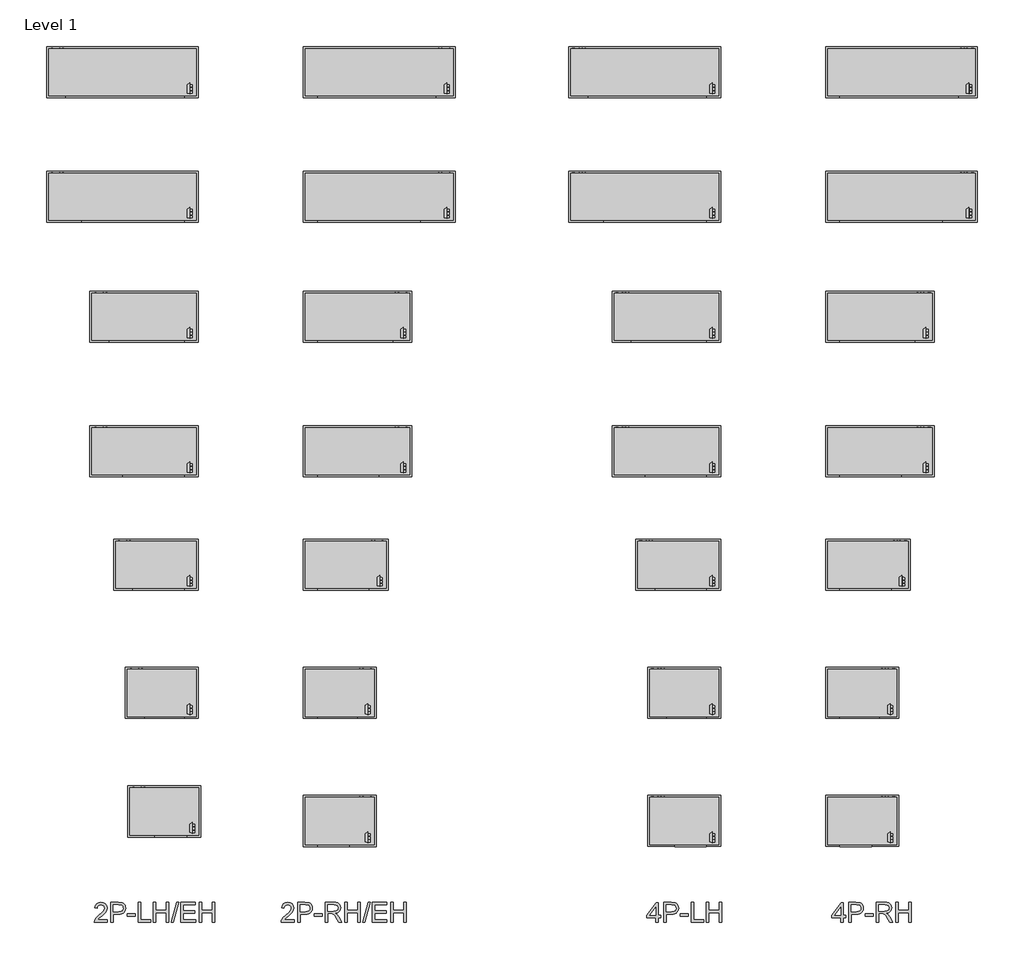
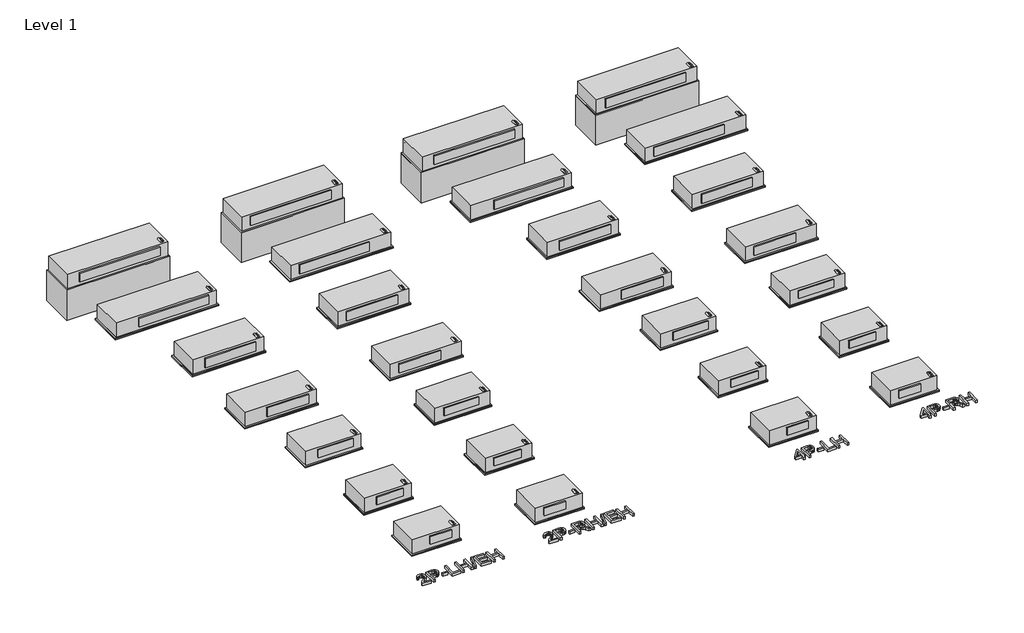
# One storey: 32 proxies.
"""IFC4 building model written with IfcOpenShell, lengths in millimetres."""

from ifc_helpers import new_model, si_unit, origin, origin_with_axes, place, context, project, spatial, polyline, outline, extrude, transform, mapped, element, save
from components import mechanical_equipment_633f6ef1, mechanical_equipment_d1eed018, mechanical_equipment_48fb63d9, mechanical_equipment_cf1a71f1, mechanical_equipment_db088cd1, mechanical_equipment_1a55ae02, mechanical_equipment_9cad60a5, mechanical_equipment_09d2879e, mechanical_equipment_3ef22b79, mechanical_equipment_a935bf6d, mechanical_equipment_6b5461d0, mechanical_equipment_c4cb6196, mechanical_equipment_329d961f, mechanical_equipment_5886c7f6, mechanical_equipment_81cd0e4f, mechanical_equipment_a4355331, mechanical_equipment_d2c932b0, mechanical_equipment_86200f0f, mechanical_equipment_790cad55, mechanical_equipment_7146fa5c, mechanical_equipment_15e1d8de, mechanical_equipment_340a6c1b, mechanical_equipment_507d744f, mechanical_equipment_dfca75fd, mechanical_equipment_479caae4, mechanical_equipment_9d87b53e, mechanical_equipment_d87b259f, mechanical_equipment_dec472a1

model = new_model("IFC4")

# Units and contexts
model_context = context("Model", 3, world=origin())
ifc_project = project(units=[si_unit("LENGTHUNIT", "METRE", prefix="MILLI")], contexts=[model_context])

# Site, building, storey
site = spatial("IfcSite", under=ifc_project)
building = spatial("IfcBuilding", under=site)
storey = spatial("IfcBuildingStorey", under=building, Name="Level 1", Elevation=0.0)

# Proxies
placement = place(None, origin())
mechanical_equipment_shape = mechanical_equipment_633f6ef1(model_context)
element("IfcBuildingElementProxy", 1, Name="Horizontal_Telescoping_Fan_Coil_Unit_-_CBY_-_IEC_-_4-Pipe_LH_2022 : Size 12 - 277v/60Hz/1Ph - 4/1 Coil", ObjectType="Horizontal_Telescoping_Fan_Coil_Unit_-_CBY_-_IEC_-_4-Pipe_LH_2022 : Size 12 - 277v/60Hz/1Ph - 4/1 Coil", at=placement, inside=storey, context=model_context, shape_type="MappedRepresentation", body=[
    mapped(mechanical_equipment_shape, transform((-9121.1167535, 3659.7082693, 0.0), x_axis=(1.0, 0.0, 0.0), y_axis=(0.0, 1.0, 0.0), z_axis=(0.0, 0.0, 1.0))),
])
mechanical_equipment_2_shape = mechanical_equipment_d1eed018(model_context)
element("IfcBuildingElementProxy", 2, Name="Horizontal_Telescoping_Fan_Coil_Unit_-_CBY_-_IEC_-_4-Pipe_LH_2022 : Size 10 - 277v/60Hz/1Ph - 4/1 Coil", ObjectType="Horizontal_Telescoping_Fan_Coil_Unit_-_CBY_-_IEC_-_4-Pipe_LH_2022 : Size 10 - 277v/60Hz/1Ph - 4/1 Coil", at=placement, inside=storey, context=model_context, shape_type="MappedRepresentation", body=[
    mapped(mechanical_equipment_2_shape, transform((-9121.1167535, 2055.0556307, 0.0), x_axis=(1.0, 0.0, 0.0), y_axis=(0.0, 1.0, 0.0), z_axis=(0.0, 0.0, 1.0))),
])
mechanical_equipment_3_shape = mechanical_equipment_48fb63d9(model_context)
element("IfcBuildingElementProxy", 3, Name="Horizontal_Telescoping_Fan_Coil_Unit_-_CBY_-_IEC_-_4-Pipe_LH_2022 : Size 08 - 277v/60Hz/1Ph - 4/1 Coil", ObjectType="Horizontal_Telescoping_Fan_Coil_Unit_-_CBY_-_IEC_-_4-Pipe_LH_2022 : Size 08 - 277v/60Hz/1Ph - 4/1 Coil", at=placement, inside=storey, context=model_context, shape_type="MappedRepresentation", body=[
    mapped(mechanical_equipment_3_shape, transform((-8841.7167535, 508.0546274, 0.0), x_axis=(1.0, 0.0, 0.0), y_axis=(0.0, 1.0, 0.0), z_axis=(0.0, 0.0, 1.0))),
])
mechanical_equipment_4_shape = mechanical_equipment_cf1a71f1(model_context)
element("IfcBuildingElementProxy", 4, Name="Horizontal_Telescoping_Fan_Coil_Unit_-_CBY_-_IEC_-_4-Pipe_LH_2022 : Size 06 - 277v/60Hz/1Ph - 4/1 Coil", ObjectType="Horizontal_Telescoping_Fan_Coil_Unit_-_CBY_-_IEC_-_4-Pipe_LH_2022 : Size 06 - 277v/60Hz/1Ph - 4/1 Coil", at=placement, inside=storey, context=model_context, shape_type="MappedRepresentation", body=[
    mapped(mechanical_equipment_4_shape, transform((-8841.7167535, -1224.5864964, 0.0), x_axis=(1.0, 0.0, 0.0), y_axis=(0.0, 1.0, 0.0), z_axis=(0.0, 0.0, 1.0))),
])
mechanical_equipment_5_shape = mechanical_equipment_db088cd1(model_context)
element("IfcBuildingElementProxy", 5, Name="Horizontal_Telescoping_Fan_Coil_Unit_-_CBY_-_IEC_-_4-Pipe_LH_2022 : Size 04 - 277v/60Hz/1Ph - 4/1 Coil", ObjectType="Horizontal_Telescoping_Fan_Coil_Unit_-_CBY_-_IEC_-_4-Pipe_LH_2022 : Size 04 - 277v/60Hz/1Ph - 4/1 Coil", at=placement, inside=storey, context=model_context, shape_type="MappedRepresentation", body=[
    mapped(mechanical_equipment_5_shape, transform((-8689.3167535, -2689.0807796, 0.0), x_axis=(1.0, 0.0, 0.0), y_axis=(0.0, 1.0, 0.0), z_axis=(0.0, 0.0, 1.0))),
])
mechanical_equipment_6_shape = mechanical_equipment_1a55ae02(model_context)
element("IfcBuildingElementProxy", 6, Name="Horizontal_Telescoping_Fan_Coil_Unit_-_CBY_-_IEC_-_4-Pipe_LH_2022 : Size 03 - 277v/60Hz/1Ph - 4/1 Coil", ObjectType="Horizontal_Telescoping_Fan_Coil_Unit_-_CBY_-_IEC_-_4-Pipe_LH_2022 : Size 03 - 277v/60Hz/1Ph - 4/1 Coil", at=placement, inside=storey, context=model_context, shape_type="MappedRepresentation", body=[
    mapped(mechanical_equipment_6_shape, transform((-8613.1167535, -4339.2151831, 0.0), x_axis=(1.0, 0.0, 0.0), y_axis=(0.0, 1.0, 0.0), z_axis=(0.0, 0.0, 1.0))),
])
mechanical_equipment_7_shape = mechanical_equipment_9cad60a5(model_context)
element("IfcBuildingElementProxy", 7, Name="Horizontal_Telescoping_Fan_Coil_Unit_-_CBY_-_IEC_-_4-Pipe_LH_2022 : Size 02 - 277v/60Hz/1Ph - 4/1 Coil", ObjectType="Horizontal_Telescoping_Fan_Coil_Unit_-_CBY_-_IEC_-_4-Pipe_LH_2022 : Size 02 - 277v/60Hz/1Ph - 4/1 Coil", at=placement, inside=storey, context=model_context, shape_type="MappedRepresentation", body=[
    mapped(mechanical_equipment_7_shape, transform((-8613.1167535, -5989.3495867, 0.0), x_axis=(1.0, 0.0, 0.0), y_axis=(0.0, 1.0, 0.0), z_axis=(0.0, 0.0, 1.0))),
])
mechanical_equipment_8_shape = mechanical_equipment_09d2879e(model_context)
element("IfcBuildingElementProxy", 8, Name="Horizontal_Telescoping_Fan_Coil_Unit_-_CBY_-_IEC_-_2-Pipe_Cool-EHeat_LH_2022 : Size 10 - 277v/60Hz/1Ph - 4 Row 8.0kW", ObjectType="Horizontal_Telescoping_Fan_Coil_Unit_-_CBY_-_IEC_-_2-Pipe_Cool-EHeat_LH_2022 : Size 10 - 277v/60Hz/1Ph - 4 Row 8.0kW", at=placement, inside=storey, context=model_context, shape_type="MappedRepresentation", body=[
    mapped(mechanical_equipment_8_shape, transform((-15852.1167535, 2055.0556307, 0.0), x_axis=(1.0, 0.0, 0.0), y_axis=(0.0, 1.0, 0.0), z_axis=(0.0, 0.0, 1.0))),
])
mechanical_equipment_9_shape = mechanical_equipment_3ef22b79(model_context)
element("IfcBuildingElementProxy", 9, Name="Horizontal_Telescoping_Fan_Coil_Unit_-_CBY_-_IEC_-_2-Pipe_Cool-EHeat_LH_2022 : Size 08 - 277v/60Hz/1Ph - 4 Row 6.0kW", ObjectType="Horizontal_Telescoping_Fan_Coil_Unit_-_CBY_-_IEC_-_2-Pipe_Cool-EHeat_LH_2022 : Size 08 - 277v/60Hz/1Ph - 4 Row 6.0kW", at=placement, inside=storey, context=model_context, shape_type="MappedRepresentation", body=[
    mapped(mechanical_equipment_9_shape, transform((-15572.7167535, 508.0546274, 0.0), x_axis=(1.0, 0.0, 0.0), y_axis=(0.0, 1.0, 0.0), z_axis=(0.0, 0.0, 1.0))),
])
mechanical_equipment_10_shape = mechanical_equipment_a935bf6d(model_context)
element("IfcBuildingElementProxy", 10, Name="Horizontal_Telescoping_Fan_Coil_Unit_-_CBY_-_IEC_-_2-Pipe_Cool-EHeat_LH_2022 : Size 06 - 277v/60Hz/1Ph - 4 Row 6.0kW", ObjectType="Horizontal_Telescoping_Fan_Coil_Unit_-_CBY_-_IEC_-_2-Pipe_Cool-EHeat_LH_2022 : Size 06 - 277v/60Hz/1Ph - 4 Row 6.0kW", at=placement, inside=storey, context=model_context, shape_type="MappedRepresentation", body=[
    mapped(mechanical_equipment_10_shape, transform((-15572.7167535, -1224.5864964, 0.0), x_axis=(1.0, 0.0, 0.0), y_axis=(0.0, 1.0, 0.0), z_axis=(0.0, 0.0, 1.0))),
])
mechanical_equipment_11_shape = mechanical_equipment_6b5461d0(model_context)
element("IfcBuildingElementProxy", 11, Name="Horizontal_Telescoping_Fan_Coil_Unit_-_CBY_-_IEC_-_2-Pipe_Cool-EHeat_LH_2022 : Size 04 - 277v/60Hz/1Ph - 4 Row 3.0kW", ObjectType="Horizontal_Telescoping_Fan_Coil_Unit_-_CBY_-_IEC_-_2-Pipe_Cool-EHeat_LH_2022 : Size 04 - 277v/60Hz/1Ph - 4 Row 3.0kW", at=placement, inside=storey, context=model_context, shape_type="MappedRepresentation", body=[
    mapped(mechanical_equipment_11_shape, transform((-15420.3167535, -2689.0807796, 0.0), x_axis=(1.0, 0.0, 0.0), y_axis=(0.0, 1.0, 0.0), z_axis=(0.0, 0.0, 1.0))),
])
mechanical_equipment_12_shape = mechanical_equipment_c4cb6196(model_context)
element("IfcBuildingElementProxy", 12, Name="Horizontal_Telescoping_Fan_Coil_Unit_-_CBY_-_IEC_-_2-Pipe_Cool-EHeat_LH_2022 : Size 03 - 277v/60Hz/1Ph - 4 Row 3.0kW", ObjectType="Horizontal_Telescoping_Fan_Coil_Unit_-_CBY_-_IEC_-_2-Pipe_Cool-EHeat_LH_2022 : Size 03 - 277v/60Hz/1Ph - 4 Row 3.0kW", at=placement, inside=storey, context=model_context, shape_type="MappedRepresentation", body=[
    mapped(mechanical_equipment_12_shape, transform((-15344.1167535, -4339.2151831, 0.0), x_axis=(1.0, 0.0, 0.0), y_axis=(0.0, 1.0, 0.0), z_axis=(0.0, 0.0, 1.0))),
])
mechanical_equipment_13_shape = mechanical_equipment_329d961f(model_context)
element("IfcBuildingElementProxy", 13, Name="Horizontal_Telescoping_Fan_Coil_Unit_-_CBY_-_IEC_-_2-Pipe_Cool-EHeat_LH_2022 : Size 02 - 277v/60Hz/1Ph - 4 Row 2.0kW", ObjectType="Horizontal_Telescoping_Fan_Coil_Unit_-_CBY_-_IEC_-_2-Pipe_Cool-EHeat_LH_2022 : Size 02 - 277v/60Hz/1Ph - 4 Row 2.0kW", at=placement, inside=storey, context=model_context, shape_type="MappedRepresentation", body=[
    mapped(mechanical_equipment_13_shape, transform((-15311.910844, -5869.1554962, 87.988181), x_axis=(1.0, 0.0, 0.0), y_axis=(0.0, 1.0, 0.0), z_axis=(0.0, 0.0, 1.0))),
])
mechanical_equipment_14_shape = mechanical_equipment_5886c7f6(model_context)
element("IfcBuildingElementProxy", 14, Name="Horizontal_Telescoping_Fan_Coil_Unit_-_CBY_-_IEC_-_2-Pipe_Cool-EHeat_RH_2022 : Size 10 - 277v/60Hz/1Ph - 4 Row 8.0kW", ObjectType="Horizontal_Telescoping_Fan_Coil_Unit_-_CBY_-_IEC_-_2-Pipe_Cool-EHeat_RH_2022 : Size 10 - 277v/60Hz/1Ph - 4 Row 8.0kW", at=placement, inside=storey, context=model_context, shape_type="MappedRepresentation", body=[
    mapped(mechanical_equipment_14_shape, transform((-12542.0194717, 2055.0556307, 0.0), x_axis=(1.0, 0.0, 0.0), y_axis=(0.0, 1.0, 0.0), z_axis=(0.0, 0.0, 1.0))),
])
mechanical_equipment_15_shape = mechanical_equipment_81cd0e4f(model_context)
element("IfcBuildingElementProxy", 15, Name="Horizontal_Telescoping_Fan_Coil_Unit_-_CBY_-_IEC_-_2-Pipe_Cool-EHeat_RH_2022 : Size 08 - 277v/60Hz/1Ph - 4 Row 6.0kW", ObjectType="Horizontal_Telescoping_Fan_Coil_Unit_-_CBY_-_IEC_-_2-Pipe_Cool-EHeat_RH_2022 : Size 08 - 277v/60Hz/1Ph - 4 Row 6.0kW", at=placement, inside=storey, context=model_context, shape_type="MappedRepresentation", body=[
    mapped(mechanical_equipment_15_shape, transform((-12821.4194717, 508.0546274, 0.0), x_axis=(1.0, 0.0, 0.0), y_axis=(0.0, 1.0, 0.0), z_axis=(0.0, 0.0, 1.0))),
])
mechanical_equipment_16_shape = mechanical_equipment_a4355331(model_context)
element("IfcBuildingElementProxy", 16, Name="Horizontal_Telescoping_Fan_Coil_Unit_-_CBY_-_IEC_-_2-Pipe_Cool-EHeat_RH_2022 : Size 06 - 277v/60Hz/1Ph - 4 Row 6.0kW", ObjectType="Horizontal_Telescoping_Fan_Coil_Unit_-_CBY_-_IEC_-_2-Pipe_Cool-EHeat_RH_2022 : Size 06 - 277v/60Hz/1Ph - 4 Row 6.0kW", at=placement, inside=storey, context=model_context, shape_type="MappedRepresentation", body=[
    mapped(mechanical_equipment_16_shape, transform((-12821.4194717, -1224.5864964, 0.0), x_axis=(1.0, 0.0, 0.0), y_axis=(0.0, 1.0, 0.0), z_axis=(0.0, 0.0, 1.0))),
])
mechanical_equipment_17_shape = mechanical_equipment_d2c932b0(model_context)
element("IfcBuildingElementProxy", 17, Name="Horizontal_Telescoping_Fan_Coil_Unit_-_CBY_-_IEC_-_2-Pipe_Cool-EHeat_RH_2022 : Size 04 - 277v/60Hz/1Ph - 4 Row 3.0kW", ObjectType="Horizontal_Telescoping_Fan_Coil_Unit_-_CBY_-_IEC_-_2-Pipe_Cool-EHeat_RH_2022 : Size 04 - 277v/60Hz/1Ph - 4 Row 3.0kW", at=placement, inside=storey, context=model_context, shape_type="MappedRepresentation", body=[
    mapped(mechanical_equipment_17_shape, transform((-12973.8194717, -2689.0807796, 0.0), x_axis=(1.0, 0.0, 0.0), y_axis=(0.0, 1.0, 0.0), z_axis=(0.0, 0.0, 1.0))),
])
mechanical_equipment_18_shape = mechanical_equipment_86200f0f(model_context)
element("IfcBuildingElementProxy", 18, Name="Horizontal_Telescoping_Fan_Coil_Unit_-_CBY_-_IEC_-_2-Pipe_Cool-EHeat_RH_2022 : Size 03 - 277v/60Hz/1Ph - 4 Row 3.0kW", ObjectType="Horizontal_Telescoping_Fan_Coil_Unit_-_CBY_-_IEC_-_2-Pipe_Cool-EHeat_RH_2022 : Size 03 - 277v/60Hz/1Ph - 4 Row 3.0kW", at=placement, inside=storey, context=model_context, shape_type="MappedRepresentation", body=[
    mapped(mechanical_equipment_18_shape, transform((-13050.0194717, -4339.2151831, 0.0), x_axis=(1.0, 0.0, 0.0), y_axis=(0.0, 1.0, 0.0), z_axis=(0.0, 0.0, 1.0))),
])
mechanical_equipment_19_shape = mechanical_equipment_790cad55(model_context)
element("IfcBuildingElementProxy", 19, Name="Horizontal_Telescoping_Fan_Coil_Unit_-_CBY_-_IEC_-_2-Pipe_Cool-EHeat_RH_2022 : Size 02 - 277v/60Hz/1Ph - 4 Row 2.0kW", ObjectType="Horizontal_Telescoping_Fan_Coil_Unit_-_CBY_-_IEC_-_2-Pipe_Cool-EHeat_RH_2022 : Size 02 - 277v/60Hz/1Ph - 4 Row 2.0kW", at=placement, inside=storey, context=model_context, shape_type="MappedRepresentation", body=[
    mapped(mechanical_equipment_19_shape, transform((-13050.0194717, -5989.3495867, 0.0), x_axis=(1.0, 0.0, 0.0), y_axis=(0.0, 1.0, 0.0), z_axis=(0.0, 0.0, 1.0))),
])
mechanical_equipment_20_shape = mechanical_equipment_7146fa5c(model_context)
element("IfcBuildingElementProxy", 20, Name="Horizontal_Telescoping_Fan_Coil_Unit_-_CBY_-_IEC_-_4-Pipe_RH_2022 : Size 02 - 277v/60Hz/1Ph - 4/1 Coil", ObjectType="Horizontal_Telescoping_Fan_Coil_Unit_-_CBY_-_IEC_-_4-Pipe_RH_2022 : Size 02 - 277v/60Hz/1Ph - 4/1 Coil", at=placement, inside=storey, context=model_context, shape_type="MappedRepresentation", body=[
    mapped(mechanical_equipment_20_shape, transform((-6319.0194717, -5989.3495867, 0.0), x_axis=(1.0, 0.0, 0.0), y_axis=(0.0, 1.0, 0.0), z_axis=(0.0, 0.0, 1.0))),
])
mechanical_equipment_21_shape = mechanical_equipment_15e1d8de(model_context)
element("IfcBuildingElementProxy", 21, Name="Horizontal_Telescoping_Fan_Coil_Unit_-_CBY_-_IEC_-_4-Pipe_RH_2022 : Size 03 - 277v/60Hz/1Ph - 4/1 Coil", ObjectType="Horizontal_Telescoping_Fan_Coil_Unit_-_CBY_-_IEC_-_4-Pipe_RH_2022 : Size 03 - 277v/60Hz/1Ph - 4/1 Coil", at=placement, inside=storey, context=model_context, shape_type="MappedRepresentation", body=[
    mapped(mechanical_equipment_21_shape, transform((-6319.0194717, -4339.2151831, 0.0), x_axis=(1.0, 0.0, 0.0), y_axis=(0.0, 1.0, 0.0), z_axis=(0.0, 0.0, 1.0))),
])
mechanical_equipment_22_shape = mechanical_equipment_340a6c1b(model_context)
element("IfcBuildingElementProxy", 22, Name="Horizontal_Telescoping_Fan_Coil_Unit_-_CBY_-_IEC_-_4-Pipe_RH_2022 : Size 04 - 277v/60Hz/1Ph - 4/1 Coil", ObjectType="Horizontal_Telescoping_Fan_Coil_Unit_-_CBY_-_IEC_-_4-Pipe_RH_2022 : Size 04 - 277v/60Hz/1Ph - 4/1 Coil", at=placement, inside=storey, context=model_context, shape_type="MappedRepresentation", body=[
    mapped(mechanical_equipment_22_shape, transform((-6242.8194717, -2689.0807796, 0.0), x_axis=(1.0, 0.0, 0.0), y_axis=(0.0, 1.0, 0.0), z_axis=(0.0, 0.0, 1.0))),
])
mechanical_equipment_23_shape = mechanical_equipment_507d744f(model_context)
element("IfcBuildingElementProxy", 23, Name="Horizontal_Telescoping_Fan_Coil_Unit_-_CBY_-_IEC_-_4-Pipe_RH_2022 : Size 06 - 277v/60Hz/1Ph - 4/1 Coil", ObjectType="Horizontal_Telescoping_Fan_Coil_Unit_-_CBY_-_IEC_-_4-Pipe_RH_2022 : Size 06 - 277v/60Hz/1Ph - 4/1 Coil", at=placement, inside=storey, context=model_context, shape_type="MappedRepresentation", body=[
    mapped(mechanical_equipment_23_shape, transform((-6090.4194717, -1224.5864964, 0.0), x_axis=(1.0, 0.0, 0.0), y_axis=(0.0, 1.0, 0.0), z_axis=(0.0, 0.0, 1.0))),
])
mechanical_equipment_24_shape = mechanical_equipment_dfca75fd(model_context)
element("IfcBuildingElementProxy", 24, Name="Horizontal_Telescoping_Fan_Coil_Unit_-_CBY_-_IEC_-_4-Pipe_RH_2022 : Size 08 - 277v/60Hz/1Ph - 4/1 Coil", ObjectType="Horizontal_Telescoping_Fan_Coil_Unit_-_CBY_-_IEC_-_4-Pipe_RH_2022 : Size 08 - 277v/60Hz/1Ph - 4/1 Coil", at=placement, inside=storey, context=model_context, shape_type="MappedRepresentation", body=[
    mapped(mechanical_equipment_24_shape, transform((-6090.4194717, 508.0546274, 0.0), x_axis=(1.0, 0.0, 0.0), y_axis=(0.0, 1.0, 0.0), z_axis=(0.0, 0.0, 1.0))),
])
mechanical_equipment_25_shape = mechanical_equipment_479caae4(model_context)
element("IfcBuildingElementProxy", 25, Name="Horizontal_Telescoping_Fan_Coil_Unit_-_CBY_-_IEC_-_4-Pipe_RH_2022 : Size 10 - 277v/60Hz/1Ph - 4/1 Coil", ObjectType="Horizontal_Telescoping_Fan_Coil_Unit_-_CBY_-_IEC_-_4-Pipe_RH_2022 : Size 10 - 277v/60Hz/1Ph - 4/1 Coil", at=placement, inside=storey, context=model_context, shape_type="MappedRepresentation", body=[
    mapped(mechanical_equipment_25_shape, transform((-5811.0194717, 2055.0556307, 0.0), x_axis=(1.0, 0.0, 0.0), y_axis=(0.0, 1.0, 0.0), z_axis=(0.0, 0.0, 1.0))),
])
mechanical_equipment_26_shape = mechanical_equipment_9d87b53e(model_context)
element("IfcBuildingElementProxy", 26, Name="Horizontal_Telescoping_Fan_Coil_Unit_-_CBY_-_IEC_-_2-Pipe_Cool-EHeat_RH_2022 : Size 12 - 277v/60Hz/1Ph - 4 Row 10.0kW", ObjectType="Horizontal_Telescoping_Fan_Coil_Unit_-_CBY_-_IEC_-_2-Pipe_Cool-EHeat_RH_2022 : Size 12 - 277v/60Hz/1Ph - 4 Row 10.0kW", at=placement, inside=storey, context=model_context, shape_type="MappedRepresentation", body=[
    mapped(mechanical_equipment_26_shape, transform((-12542.0194717, 3659.7082693, 0.0), x_axis=(1.0, 0.0, 0.0), y_axis=(0.0, 1.0, 0.0), z_axis=(0.0, 0.0, 1.0))),
])
mechanical_equipment_27_shape = mechanical_equipment_d87b259f(model_context)
element("IfcBuildingElementProxy", 27, Name="Horizontal_Telescoping_Fan_Coil_Unit_-_CBY_-_IEC_-_4-Pipe_RH_2022 : Size 12 - 277v/60Hz/1Ph - 4/1 Coil", ObjectType="Horizontal_Telescoping_Fan_Coil_Unit_-_CBY_-_IEC_-_4-Pipe_RH_2022 : Size 12 - 277v/60Hz/1Ph - 4/1 Coil", at=placement, inside=storey, context=model_context, shape_type="MappedRepresentation", body=[
    mapped(mechanical_equipment_27_shape, transform((-5811.0194717, 3659.7082693, 0.0), x_axis=(1.0, 0.0, 0.0), y_axis=(0.0, 1.0, 0.0), z_axis=(0.0, 0.0, 1.0))),
])
mechanical_equipment_28_shape = mechanical_equipment_dec472a1(model_context)
element("IfcBuildingElementProxy", 28, Name="Horizontal_Telescoping_Fan_Coil_Unit_-_CBY_-_IEC_-_2-Pipe_Cool-EHeat_LH_2022 : Size 12 - 277v/60Hz/1Ph - 4 Row 10.0kW", ObjectType="Horizontal_Telescoping_Fan_Coil_Unit_-_CBY_-_IEC_-_2-Pipe_Cool-EHeat_LH_2022 : Size 12 - 277v/60Hz/1Ph - 4 Row 10.0kW", at=placement, inside=storey, context=model_context, shape_type="MappedRepresentation", body=[
    mapped(mechanical_equipment_28_shape, transform((-15852.1167535, 3659.7082693, 0.0), x_axis=(1.0, 0.0, 0.0), y_axis=(0.0, 1.0, 0.0), z_axis=(0.0, 0.0, 1.0))),
])
element("IfcBuildingElementProxy", 29, Name="24\" Arial", ObjectType="24\" Arial", at=placement, inside=storey, context=model_context, shape_type="SweptSolid", body=[
    extrude(outline(polyline([(-15893.8667934, -7500.6096443), (-15893.8667934, -7532.5045228), (-16061.3149054, -7532.5045228), (-16057.8886978, -7510.5144991), (-16050.0239939, -7493.328953), (-16038.5150509, -7476.6573381), (-15998.5841581, -7439.6854428), (-15964.1663449, -7409.1143264), (-15943.515657, -7386.5480769), (-15933.190313, -7368.2334397), (-15929.7485317, -7350.4171599), (-15932.9956422, -7334.4463602), (-15942.7369734, -7321.1698055), (-15957.7110582, -7312.2227315), (-15976.6564292, -7309.2403734), (-15996.551794, -7312.1526499), (-16012.0086626, -7320.8894794), (-16021.983599, -7334.7656204), (-16025.4331671, -7353.0958313), (-16057.3280456, -7349.1089715), (-16049.5957179, -7318.257529), (-16032.8773819, -7295.7224269), (-16008.0451633, -7281.939728), (-15975.9711876, -7277.345495), (-15943.6636069, -7282.4536591), (-15918.8781093, -7297.7781515), (-15903.1097673, -7320.6714481), (-15897.8536532, -7348.4860247), (-15903.5224695, -7378.730094), (-15922.3666116, -7410.0020256), (-15968.0597627, -7453.7017468), (-16004.7513319, -7484.381879), (-16019.141404, -7500.6096443), (-15893.8667934, -7500.6096443)])), origin_with_axes(), (0.0, 0.0, 1.0), 50.8),
    extrude(outline(polyline([(-15850.0113355, -7532.5045228), (-15850.0113355, -7277.345495), (-15755.4480044, -7277.345495), (-15717.3236575, -7279.7749877), (-15700.3249955, -7284.3147128), (-15686.332052, -7291.7044198), (-15675.0645009, -7302.2789424), (-15666.2420162, -7316.3731148), (-15660.5420526, -7332.9980088), (-15658.6420647, -7351.1646961), (-15663.7735893, -7381.2374551), (-15679.1681633, -7406.2954919), (-15691.4966707, -7416.1614126), (-15707.9560943, -7423.2084988), (-15728.5464343, -7427.4367505), (-15753.2676905, -7428.8461677), (-15818.1164571, -7428.8461677), (-15818.1164571, -7532.5045228), (-15850.0113355, -7532.5045228)]), holes=[polyline([(-15818.1164571, -7396.9512892), (-15751.39885, -7396.9512892), (-15723.1170632, -7394.0234391), (-15704.4286578, -7385.2398886), (-15694.0098718, -7371.1457162), (-15690.5369432, -7352.2860004), (-15692.5848809, -7337.958223), (-15698.7286942, -7325.8730542), (-15708.2052731, -7316.7780303), (-15720.2515077, -7311.4206874), (-15752.1463862, -7309.2403734), (-15818.1164571, -7309.2403734), (-15818.1164571, -7396.9512892)])]), origin_with_axes(), (0.0, 0.0, 1.0), 50.8),
    extrude(outline(polyline([(-15634.7209059, -7456.7541864), (-15634.7209059, -7424.8593079), (-15535.0494106, -7424.8593079), (-15535.0494106, -7456.7541864), (-15634.7209059, -7456.7541864)])), origin_with_axes(), (0.0, 0.0, 1.0), 50.8),
    extrude(outline(polyline([(-15495.1808125, -7532.5045228), (-15495.1808125, -7277.345495), (-15463.2859341, -7277.345495), (-15463.2859341, -7500.6096443), (-15335.7064202, -7500.6096443), (-15335.7064202, -7532.5045228), (-15495.1808125, -7532.5045228)])), origin_with_axes(), (0.0, 0.0, 1.0), 50.8),
    extrude(outline(polyline([(-15299.8246819, -7532.5045228), (-15299.8246819, -7277.345495), (-15267.9298034, -7277.345495), (-15267.9298034, -7381.00385), (-15132.3765699, -7381.00385), (-15132.3765699, -7277.345495), (-15100.4816914, -7277.345495), (-15100.4816914, -7532.5045228), (-15132.3765699, -7532.5045228), (-15132.3765699, -7412.8987285), (-15267.9298034, -7412.8987285), (-15267.9298034, -7532.5045228), (-15299.8246819, -7532.5045228)])), origin_with_axes(), (0.0, 0.0, 1.0), 50.8),
    extrude(outline(polyline([(-15072.5736728, -7532.5045228), (-15000.8101962, -7277.345495), (-14972.030052, -7277.345495), (-15043.7935285, -7532.5045228), (-15072.5736728, -7532.5045228)])), origin_with_axes(), (0.0, 0.0, 1.0), 50.8),
    extrude(outline(polyline([(-14944.9941589, -7532.5045228), (-14944.9941589, -7277.345495), (-14761.5986077, -7277.345495), (-14761.5986077, -7309.2403734), (-14913.0992804, -7309.2403734), (-14913.0992804, -7384.9907098), (-14769.5723273, -7384.9907098), (-14769.5723273, -7416.8855883), (-14913.0992804, -7416.8855883), (-14913.0992804, -7500.6096443), (-14757.6117479, -7500.6096443), (-14757.6117479, -7532.5045228), (-14944.9941589, -7532.5045228)])), origin_with_axes(), (0.0, 0.0, 1.0), 50.8),
    extrude(outline(polyline([(-14709.7694301, -7532.5045228), (-14709.7694301, -7277.345495), (-14677.8745517, -7277.345495), (-14677.8745517, -7381.00385), (-14542.3213182, -7381.00385), (-14542.3213182, -7277.345495), (-14510.4264397, -7277.345495), (-14510.4264397, -7532.5045228), (-14542.3213182, -7532.5045228), (-14542.3213182, -7412.8987285), (-14677.8745517, -7412.8987285), (-14677.8745517, -7532.5045228), (-14709.7694301, -7532.5045228)])), origin_with_axes(), (0.0, 0.0, 1.0), 50.8),
])
element("IfcBuildingElementProxy", 30, Name="24\" Arial", ObjectType="24\" Arial", at=placement, inside=storey, context=model_context, shape_type="SweptSolid", body=[
    extrude(outline(polyline([(-13486.2184984, -7500.6096443), (-13486.2184984, -7532.5045228), (-13653.6666104, -7532.5045228), (-13650.2404028, -7510.5144991), (-13642.3756988, -7493.328953), (-13630.8667559, -7476.6573381), (-13590.9358631, -7439.6854428), (-13556.5180499, -7409.1143264), (-13535.867362, -7386.5480769), (-13525.542018, -7368.2334397), (-13522.1002367, -7350.4171599), (-13525.3473471, -7334.4463602), (-13535.0886784, -7321.1698055), (-13550.0627632, -7312.2227315), (-13569.0081342, -7309.2403734), (-13588.903499, -7312.1526499), (-13604.3603676, -7320.8894794), (-13614.335304, -7334.7656204), (-13617.7848721, -7353.0958313), (-13649.6797506, -7349.1089715), (-13641.9474229, -7318.257529), (-13625.2290869, -7295.7224269), (-13600.3968683, -7281.939728), (-13568.3228926, -7277.345495), (-13536.0153119, -7282.4536591), (-13511.2298143, -7297.7781515), (-13495.4614723, -7320.6714481), (-13490.2053582, -7348.4860247), (-13495.8741745, -7378.730094), (-13514.7183166, -7410.0020256), (-13560.4114677, -7453.7017468), (-13597.1030369, -7484.381879), (-13611.493109, -7500.6096443), (-13486.2184984, -7500.6096443)])), origin_with_axes(), (0.0, 0.0, 1.0), 50.8),
    extrude(outline(polyline([(-13442.3630405, -7532.5045228), (-13442.3630405, -7277.345495), (-13347.7997094, -7277.345495), (-13309.6753625, -7279.7749877), (-13292.6767005, -7284.3147128), (-13278.683757, -7291.7044198), (-13267.4162059, -7302.2789424), (-13258.5937212, -7316.3731148), (-13252.8937576, -7332.9980088), (-13250.9937697, -7351.1646961), (-13256.1252943, -7381.2374551), (-13271.5198682, -7406.2954919), (-13283.8483757, -7416.1614126), (-13300.3077993, -7423.2084988), (-13320.8981393, -7427.4367505), (-13345.6193955, -7428.8461677), (-13410.4681621, -7428.8461677), (-13410.4681621, -7532.5045228), (-13442.3630405, -7532.5045228)]), holes=[polyline([(-13410.4681621, -7396.9512892), (-13343.7505549, -7396.9512892), (-13315.4687682, -7394.0234391), (-13296.7803628, -7385.2398886), (-13286.3615768, -7371.1457162), (-13282.8886482, -7352.2860004), (-13284.9365859, -7337.958223), (-13291.0803992, -7325.8730542), (-13300.5569781, -7316.7780303), (-13312.6032127, -7311.4206874), (-13344.4980912, -7309.2403734), (-13410.4681621, -7309.2403734), (-13410.4681621, -7396.9512892)])]), origin_with_axes(), (0.0, 0.0, 1.0), 50.8),
    extrude(outline(polyline([(-13227.0726108, -7456.7541864), (-13227.0726108, -7424.8593079), (-13127.4011156, -7424.8593079), (-13127.4011156, -7456.7541864), (-13227.0726108, -7456.7541864)])), origin_with_axes(), (0.0, 0.0, 1.0), 50.8),
    extrude(outline(polyline([(-13087.5325175, -7532.5045228), (-13087.5325175, -7277.345495), (-12977.5823994, -7277.345495), (-12948.0313584, -7279.0663856), (-12926.5319054, -7284.2290576), (-12910.8180712, -7293.7601443), (-12898.6238867, -7308.5862793), (-12890.798117, -7326.970998), (-12888.1895271, -7347.1778363), (-12892.5112208, -7372.3137415), (-12905.476302, -7393.1513135), (-12927.4741125, -7408.4290849), (-12958.893994, -7416.8855883), (-12940.7662408, -7430.5281242), (-12914.9139467, -7463.3574229), (-12872.3666772, -7532.5045228), (-12909.4320145, -7532.5045228), (-12942.6350813, -7479.6163356), (-12966.6185349, -7444.6067229), (-12983.469247, -7428.0674842), (-12998.6380027, -7421.9937524), (-13017.139524, -7420.8724481), (-13055.6376391, -7420.8724481), (-13055.6376391, -7532.5045228), (-13087.5325175, -7532.5045228)]), holes=[polyline([(-13055.6376391, -7388.9775696), (-12984.2479306, -7388.9775696), (-12947.8366875, -7384.461205), (-12935.8605344, -7378.589931), (-12927.1548522, -7370.0088382), (-12921.8520172, -7359.6289864), (-12920.0844055, -7348.3614353), (-12923.4561053, -7332.8033379), (-12933.5712047, -7320.2665326), (-12950.9747822, -7311.9969132), (-12976.2119163, -7309.2403734), (-13055.6376391, -7309.2403734), (-13055.6376391, -7388.9775696)])]), origin_with_axes(), (0.0, 0.0, 1.0), 50.8),
    extrude(outline(polyline([(-12832.3734897, -7532.5045228), (-12832.3734897, -7277.345495), (-12800.4786113, -7277.345495), (-12800.4786113, -7381.00385), (-12664.9253778, -7381.00385), (-12664.9253778, -7277.345495), (-12633.0304993, -7277.345495), (-12633.0304993, -7532.5045228), (-12664.9253778, -7532.5045228), (-12664.9253778, -7412.8987285), (-12800.4786113, -7412.8987285), (-12800.4786113, -7532.5045228), (-12832.3734897, -7532.5045228)])), origin_with_axes(), (0.0, 0.0, 1.0), 50.8),
    extrude(outline(polyline([(-12605.1224806, -7532.5045228), (-12533.3590041, -7277.345495), (-12504.5788598, -7277.345495), (-12576.3423364, -7532.5045228), (-12605.1224806, -7532.5045228)])), origin_with_axes(), (0.0, 0.0, 1.0), 50.8),
    extrude(outline(polyline([(-12477.5429667, -7532.5045228), (-12477.5429667, -7277.345495), (-12294.1474155, -7277.345495), (-12294.1474155, -7309.2403734), (-12445.6480883, -7309.2403734), (-12445.6480883, -7384.9907098), (-12302.1211351, -7384.9907098), (-12302.1211351, -7416.8855883), (-12445.6480883, -7416.8855883), (-12445.6480883, -7500.6096443), (-12290.1605557, -7500.6096443), (-12290.1605557, -7532.5045228), (-12477.5429667, -7532.5045228)])), origin_with_axes(), (0.0, 0.0, 1.0), 50.8),
    extrude(outline(polyline([(-12242.318238, -7532.5045228), (-12242.318238, -7277.345495), (-12210.4233595, -7277.345495), (-12210.4233595, -7381.00385), (-12074.870126, -7381.00385), (-12074.870126, -7277.345495), (-12042.9752476, -7277.345495), (-12042.9752476, -7532.5045228), (-12074.870126, -7532.5045228), (-12074.870126, -7412.8987285), (-12210.4233595, -7412.8987285), (-12210.4233595, -7532.5045228), (-12242.318238, -7532.5045228)])), origin_with_axes(), (0.0, 0.0, 1.0), 50.8),
])
element("IfcBuildingElementProxy", 31, Name="24\" Arial", ObjectType="24\" Arial", at=placement, inside=storey, context=model_context, shape_type="SweptSolid", body=[
    extrude(outline(polyline([(-8827.3140173, -7532.5045228), (-8827.3140173, -7472.7016256), (-8942.9329517, -7472.7016256), (-8942.9329517, -7440.8067471), (-8819.3402976, -7281.3323548), (-8795.4191388, -7281.3323548), (-8795.4191388, -7440.8067471), (-8763.5242603, -7440.8067471), (-8763.5242603, -7472.7016256), (-8795.4191388, -7472.7016256), (-8795.4191388, -7532.5045228), (-8827.3140173, -7532.5045228)]), holes=[polyline([(-8827.3140173, -7440.8067471), (-8827.3140173, -7342.2565562), (-8903.6873005, -7440.8067471), (-8827.3140173, -7440.8067471)])]), origin_with_axes(), (0.0, 0.0, 1.0), 50.8),
    extrude(outline(polyline([(-8723.6556622, -7532.5045228), (-8723.6556622, -7277.345495), (-8629.0923311, -7277.345495), (-8590.9679842, -7279.7749877), (-8573.9693222, -7284.3147128), (-8559.9763787, -7291.7044198), (-8548.7088276, -7302.2789424), (-8539.8863429, -7316.3731148), (-8534.1863793, -7332.9980088), (-8532.2863914, -7351.1646961), (-8537.417916, -7381.2374551), (-8552.8124899, -7406.2954919), (-8565.1409973, -7416.1614126), (-8581.600421, -7423.2084988), (-8602.190761, -7427.4367505), (-8626.9120172, -7428.8461677), (-8691.7607837, -7428.8461677), (-8691.7607837, -7532.5045228), (-8723.6556622, -7532.5045228)]), holes=[polyline([(-8691.7607837, -7396.9512892), (-8625.0431766, -7396.9512892), (-8596.7613899, -7394.0234391), (-8578.0729845, -7385.2398886), (-8567.6541985, -7371.1457162), (-8564.1812699, -7352.2860004), (-8566.2292076, -7337.958223), (-8572.3730209, -7325.8730542), (-8581.8495998, -7316.7780303), (-8593.8958344, -7311.4206874), (-8625.7907128, -7309.2403734), (-8691.7607837, -7309.2403734), (-8691.7607837, -7396.9512892)])]), origin_with_axes(), (0.0, 0.0, 1.0), 50.8),
    extrude(outline(polyline([(-8508.3652325, -7456.7541864), (-8508.3652325, -7424.8593079), (-8408.6937373, -7424.8593079), (-8408.6937373, -7456.7541864), (-8508.3652325, -7456.7541864)])), origin_with_axes(), (0.0, 0.0, 1.0), 50.8),
    extrude(outline(polyline([(-8368.8251392, -7532.5045228), (-8368.8251392, -7277.345495), (-8336.9302607, -7277.345495), (-8336.9302607, -7500.6096443), (-8209.3507468, -7500.6096443), (-8209.3507468, -7532.5045228), (-8368.8251392, -7532.5045228)])), origin_with_axes(), (0.0, 0.0, 1.0), 50.8),
    extrude(outline(polyline([(-8173.4690086, -7532.5045228), (-8173.4690086, -7277.345495), (-8141.5741301, -7277.345495), (-8141.5741301, -7381.00385), (-8006.0208966, -7381.00385), (-8006.0208966, -7277.345495), (-7974.1260181, -7277.345495), (-7974.1260181, -7532.5045228), (-8006.0208966, -7532.5045228), (-8006.0208966, -7412.8987285), (-8141.5741301, -7412.8987285), (-8141.5741301, -7532.5045228), (-8173.4690086, -7532.5045228)])), origin_with_axes(), (0.0, 0.0, 1.0), 50.8),
])
element("IfcBuildingElementProxy", 32, Name="24\" Arial", ObjectType="24\" Arial", at=placement, inside=storey, context=model_context, shape_type="SweptSolid", body=[
    extrude(outline(polyline([(-6444.9971753, -7532.5045228), (-6444.9971753, -7472.7016256), (-6560.6161097, -7472.7016256), (-6560.6161097, -7440.8067471), (-6437.0234556, -7281.3323548), (-6413.1022968, -7281.3323548), (-6413.1022968, -7440.8067471), (-6381.2074183, -7440.8067471), (-6381.2074183, -7472.7016256), (-6413.1022968, -7472.7016256), (-6413.1022968, -7532.5045228), (-6444.9971753, -7532.5045228)]), holes=[polyline([(-6444.9971753, -7440.8067471), (-6444.9971753, -7342.2565562), (-6521.3704585, -7440.8067471), (-6444.9971753, -7440.8067471)])]), origin_with_axes(), (0.0, 0.0, 1.0), 50.8),
    extrude(outline(polyline([(-6341.3388202, -7532.5045228), (-6341.3388202, -7277.345495), (-6246.7754891, -7277.345495), (-6208.6511422, -7279.7749877), (-6191.6524802, -7284.3147128), (-6177.6595367, -7291.7044198), (-6166.3919856, -7302.2789424), (-6157.5695009, -7316.3731148), (-6151.8695373, -7332.9980088), (-6149.9695494, -7351.1646961), (-6155.101074, -7381.2374551), (-6170.4956479, -7406.2954919), (-6182.8241553, -7416.1614126), (-6199.283579, -7423.2084988), (-6219.873919, -7427.4367505), (-6244.5951752, -7428.8461677), (-6309.4439418, -7428.8461677), (-6309.4439418, -7532.5045228), (-6341.3388202, -7532.5045228)]), holes=[polyline([(-6309.4439418, -7396.9512892), (-6242.7263346, -7396.9512892), (-6214.4445479, -7394.0234391), (-6195.7561425, -7385.2398886), (-6185.3373565, -7371.1457162), (-6181.8644279, -7352.2860004), (-6183.9123656, -7337.958223), (-6190.0561789, -7325.8730542), (-6199.5327578, -7316.7780303), (-6211.5789924, -7311.4206874), (-6243.4738709, -7309.2403734), (-6309.4439418, -7309.2403734), (-6309.4439418, -7396.9512892)])]), origin_with_axes(), (0.0, 0.0, 1.0), 50.8),
    extrude(outline(polyline([(-6126.0483905, -7456.7541864), (-6126.0483905, -7424.8593079), (-6026.3768953, -7424.8593079), (-6026.3768953, -7456.7541864), (-6126.0483905, -7456.7541864)])), origin_with_axes(), (0.0, 0.0, 1.0), 50.8),
    extrude(outline(polyline([(-5986.5082972, -7532.5045228), (-5986.5082972, -7277.345495), (-5876.558179, -7277.345495), (-5847.0071381, -7279.0663856), (-5825.5076851, -7284.2290576), (-5809.7938509, -7293.7601443), (-5797.5996664, -7308.5862793), (-5789.7738967, -7326.970998), (-5787.1653068, -7347.1778363), (-5791.4870005, -7372.3137415), (-5804.4520817, -7393.1513135), (-5826.4498922, -7408.4290849), (-5857.8697737, -7416.8855883), (-5839.7420205, -7430.5281242), (-5813.8897264, -7463.3574229), (-5771.3424569, -7532.5045228), (-5808.4077942, -7532.5045228), (-5841.610861, -7479.6163356), (-5865.5943146, -7444.6067229), (-5882.4450267, -7428.0674842), (-5897.6137824, -7421.9937524), (-5916.1153037, -7420.8724481), (-5954.6134187, -7420.8724481), (-5954.6134187, -7532.5045228), (-5986.5082972, -7532.5045228)]), holes=[polyline([(-5954.6134187, -7388.9775696), (-5883.2237103, -7388.9775696), (-5846.8124672, -7384.461205), (-5834.8363141, -7378.589931), (-5826.1306319, -7370.0088382), (-5820.8277969, -7359.6289864), (-5819.0601852, -7348.3614353), (-5822.431885, -7332.8033379), (-5832.5469844, -7320.2665326), (-5849.9505619, -7311.9969132), (-5875.187696, -7309.2403734), (-5954.6134187, -7309.2403734), (-5954.6134187, -7388.9775696)])]), origin_with_axes(), (0.0, 0.0, 1.0), 50.8),
    extrude(outline(polyline([(-5731.3492694, -7532.5045228), (-5731.3492694, -7277.345495), (-5699.454391, -7277.345495), (-5699.454391, -7381.00385), (-5563.9011575, -7381.00385), (-5563.9011575, -7277.345495), (-5532.006279, -7277.345495), (-5532.006279, -7532.5045228), (-5563.9011575, -7532.5045228), (-5563.9011575, -7412.8987285), (-5699.454391, -7412.8987285), (-5699.454391, -7532.5045228), (-5731.3492694, -7532.5045228)])), origin_with_axes(), (0.0, 0.0, 1.0), 50.8),
])

save(model, "model.ifc")
